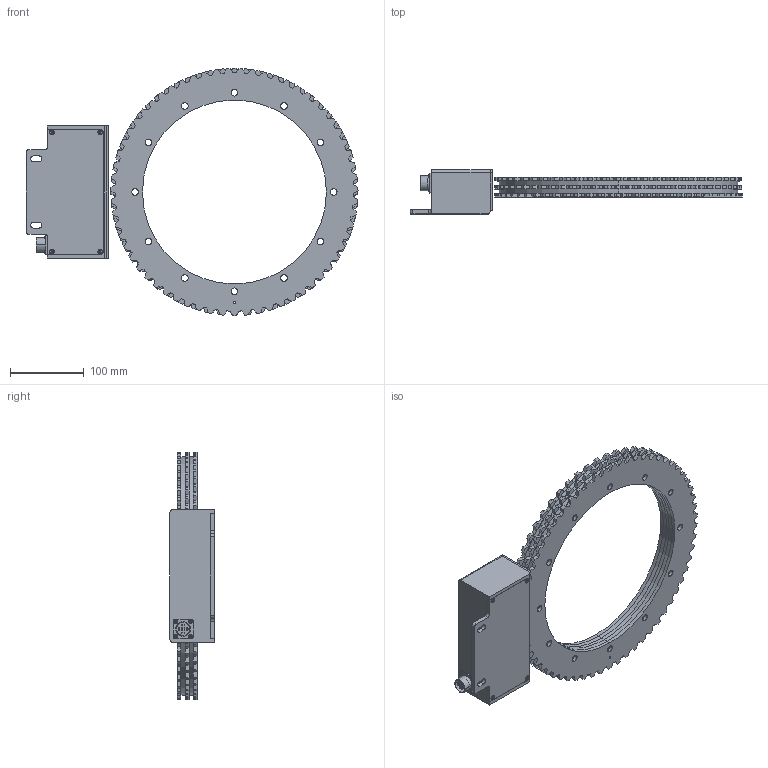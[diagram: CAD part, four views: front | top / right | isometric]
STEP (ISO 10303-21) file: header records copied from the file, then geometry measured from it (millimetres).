
FILE_DESCRIPTION (( 'STEP AP203' ), '1' );
FILE_NAME ('賺曶-250-1.STEP', '2024-10-31T07:47:06', ( '' ), ( '' ), 'SwSTEP 2.0', 'SolidWorks 2019', '' );
FILE_SCHEMA (( 'CONFIG_CONTROL_DESIGN' ));
Length unit declared in the file: millimetre
Products named in the file (17): 騷婽.741652.003 砑鳧罻_V2; ﾄﾌﾘﾊ.735224.003 ﾊ濱V2; 騷婽.711142.009 殲齕 63 鶇; ÄÌØÊ.418122.009ÑÁ Áëîê ñ÷èòûâàþùèé ÁÈÌÑ-1800-1; Âèíò Â2.Ì3-6gx6.36.016 ÃÎÑÒ 17473-80_‚¨­â ‚2.Œ3-6gx6.36.016 ƒŽ‘’ 17473-80; 賺曶-250-1; 騷婽.711142.008 殲齕 56 鶇; FQ18; Âèíò Ì3õ40; 騷婽.711142.010 殲齕 64 鶇; 妈眚 B2.M3-6gx10.36.016 梦岩 17475-80_偍 B.2.M3-6gx10.36.016 儙憭 17475-80; ÄÌØÊ.711142.006 Ïðîñòàâêà 6ìì; 騷婽.731197.007 扻豵鵨_V2; 妈眚 B2.M3-6gx8.36.016 梦岩 17475-80_偍 B.2.M3-6gx8.36.016 儙憭 17475-80; Âèíò Â2.Ì3-6gx8.36.016 ÃÎÑÒ 17473-80_‚¨­â ‚2.Œ3-6gx8.36.016 ƒŽ‘’ 17473-80; ﾄﾌﾘﾊ.741512.002 ﾎ魵瑙韃; Âèíò Â2.Ì3-6gx20.36.016 ÃÎÑÒ 17473-80_‚¨­â ‚2.Œ3-6gx20.36.016 ƒŽ‘’ 17473-80
Assembly tree (34 placements, depth 3):
  賺曶-250-1
    騷婽.711142.008 殲齕 56 鶇
    騷婽.711142.010 殲齕 64 鶇
    騷婽.711142.009 殲齕 63 鶇
    ÄÌØÊ.711142.006 Ïðîñòàâêà 6ìì  x2
    ÄÌØÊ.418122.009ÑÁ Áëîê ñ÷èòûâàþùèé ÁÈÌÑ-1800-1
      妈眚 B2.M3-6gx8.36.016 梦岩 17475-80_偍 B.2.M3-6gx8.36.016 儙憭 17475-80  x6
      妈眚 B2.M3-6gx10.36.016 梦岩 17475-80_偍 B.2.M3-6gx10.36.016 儙憭 17475-80  x6
      Âèíò Â2.Ì3-6gx6.36.016 ÃÎÑÒ 17473-80_‚¨­â ‚2.Œ3-6gx6.36.016 ƒŽ‘’ 17473-80  x4
      Âèíò Â2.Ì3-6gx8.36.016 ÃÎÑÒ 17473-80_‚¨­â ‚2.Œ3-6gx8.36.016 ƒŽ‘’ 17473-80  x2
      騷婽.731197.007 扻豵鵨_V2
      ﾄﾌﾘﾊ.741512.002 ﾎ魵瑙韃
      ﾄﾌﾘﾊ.735224.003 ﾊ濱V2
      騷婽.741652.003 砑鳧罻_V2
      FQ18
      Âèíò Ì3õ40
      Âèíò Â2.Ì3-6gx20.36.016 ÃÎÑÒ 17473-80_‚¨­â ‚2.Œ3-6gx20.36.016 ƒŽ‘’ 17473-80  x4
Bounding box: 451.33 x 60 x 335.97 mm (x, y, z)
Volume: 1166149.3 mm3; surface area: 557902.5 mm2
Topology: 33 solids, 33 shells, 2075 faces, 5536 edges, 3514 vertices
Faces by surface type: plane 1120, cylinder 599, cone 284, torus 40, sphere 20, bspline 12
Entity records: 50651 total; most frequent: CARTESIAN_POINT 10237, DIRECTION 8029, ORIENTED_EDGE 7964, EDGE_CURVE 3982, LINE 2685, VECTOR 2685, AXIS2_PLACEMENT_3D 2672, VERTEX_POINT 2604
